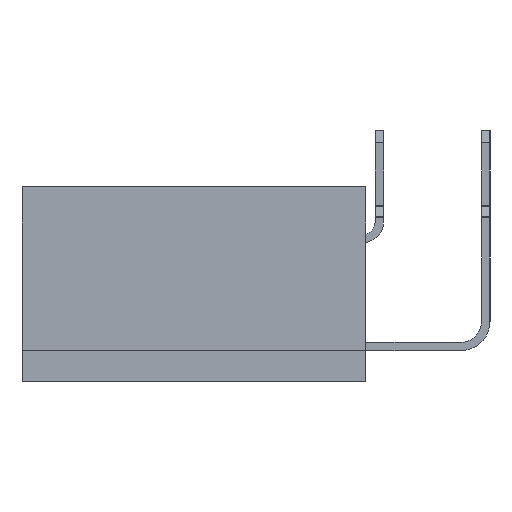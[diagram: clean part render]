
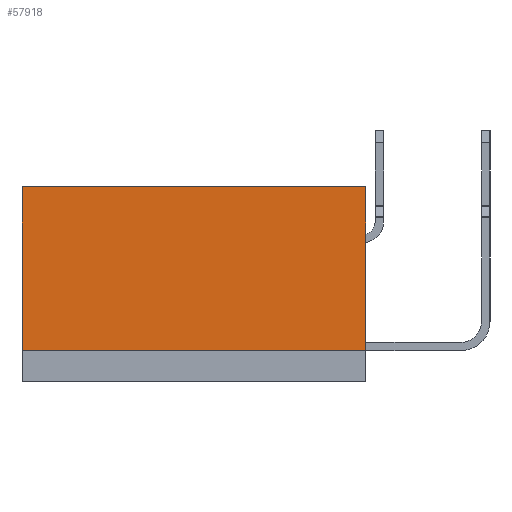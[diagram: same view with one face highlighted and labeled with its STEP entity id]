
A CAD part, left-side view. The second image highlights one B-rep face of the part: STEP entity #57918.
In plain terms, the highlighted planar face has unit normal (-1, 0, 0).
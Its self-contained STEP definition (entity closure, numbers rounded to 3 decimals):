
#37=DIRECTION('',(0.,0.,-1.));
#38=VECTOR('',#37,7.79);
#39=CARTESIAN_POINT('',(-6.58,-8.2,5.04));
#40=LINE('',#39,#38);
#11353=DIRECTION('',(0.,-1.,0.));
#11354=VECTOR('',#11353,16.4);
#11355=CARTESIAN_POINT('',(-6.58,8.2,-2.75));
#11356=LINE('',#11355,#11354);
#11357=DIRECTION('',(0.,0.,-1.));
#11358=VECTOR('',#11357,7.79);
#11359=CARTESIAN_POINT('',(-6.58,8.2,5.04));
#11360=LINE('',#11359,#11358);
#11361=DIRECTION('',(0.,1.,0.));
#11362=VECTOR('',#11361,16.4);
#11363=CARTESIAN_POINT('',(-6.58,-8.2,5.04));
#11364=LINE('',#11363,#11362);
#32933=CARTESIAN_POINT('',(-6.58,-8.2,-2.75));
#32935=VERTEX_POINT('',#32933);
#32937=CARTESIAN_POINT('',(-6.58,8.2,-2.75));
#32938=VERTEX_POINT('',#32937);
#32941=CARTESIAN_POINT('',(-6.58,-8.2,5.04));
#32942=VERTEX_POINT('',#32941);
#32943=CARTESIAN_POINT('',(-6.58,8.2,5.04));
#32944=VERTEX_POINT('',#32943);
#57906=CARTESIAN_POINT('',(-6.58,-8.2,-2.75));
#57907=DIRECTION('',(-1.,0.,0.));
#57908=DIRECTION('',(0.,0.,1.));
#57909=AXIS2_PLACEMENT_3D('',#57906,#57907,#57908);
#57910=PLANE('',#57909);
#57911=ORIENTED_EDGE('',*,*,#57898,.F.);
#57912=ORIENTED_EDGE('',*,*,#57283,.F.);
#57914=ORIENTED_EDGE('',*,*,#57913,.F.);
#57915=ORIENTED_EDGE('',*,*,#42214,.T.);
#57916=EDGE_LOOP('',(#57911,#57912,#57914,#57915));
#57917=FACE_OUTER_BOUND('',#57916,.F.);
#57918=ADVANCED_FACE('',(#57917),#57910,.T.);
#42214=EDGE_CURVE('',#32942,#32935,#40,.T.);
#57283=EDGE_CURVE('',#32944,#32938,#11360,.T.);
#57898=EDGE_CURVE('',#32938,#32935,#11356,.T.);
#57913=EDGE_CURVE('',#32942,#32944,#11364,.T.);
